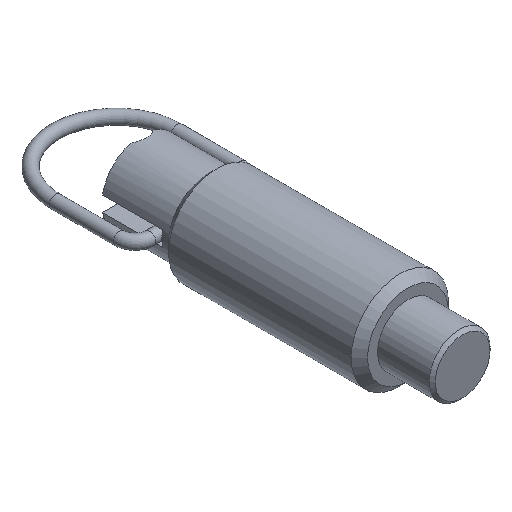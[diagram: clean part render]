
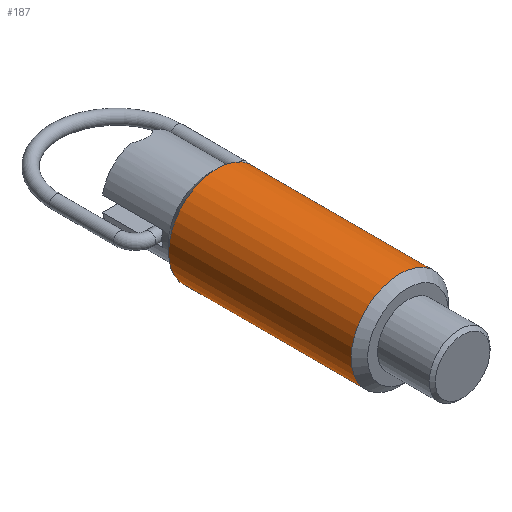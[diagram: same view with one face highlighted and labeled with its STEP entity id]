
A CAD part, isometric view. The second image highlights one B-rep face of the part: STEP entity #187.
In plain terms, the highlighted cylindrical face has radius 8 mm (diameter 16 mm), a full revolution.
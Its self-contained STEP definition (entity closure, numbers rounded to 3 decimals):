
#187 = ADVANCED_FACE( '', ( #255, #256 ), #257, .T. );
#255 = FACE_OUTER_BOUND( '', #370, .T. );
#256 = FACE_OUTER_BOUND( '', #371, .T. );
#257 = CYLINDRICAL_SURFACE( '', #372, 8. );
#370 = EDGE_LOOP( '', ( #578 ) );
#371 = EDGE_LOOP( '', ( #579 ) );
#372 = AXIS2_PLACEMENT_3D( '', #580, #581, #582 );
#578 = ORIENTED_EDGE( '', *, *, #739, .T. );
#579 = ORIENTED_EDGE( '', *, *, #740, .F. );
#580 = CARTESIAN_POINT( '', ( 0., 0., 0. ) );
#581 = DIRECTION( '', ( 0., 1., 0. ) );
#582 = DIRECTION( '', ( 0., 0., -1. ) );
#739 = EDGE_CURVE( '', #833, #833, #834, .T. );
#740 = EDGE_CURVE( '', #835, #835, #836, .T. );
#833 = VERTEX_POINT( '', #1035 );
#834 = CIRCLE( '', #1036, 8. );
#835 = VERTEX_POINT( '', #1037 );
#836 = CIRCLE( '', #1038, 8. );
#1035 = CARTESIAN_POINT( '', ( 0., 31.4, -8. ) );
#1036 = AXIS2_PLACEMENT_3D( '', #1228, #1229, #1230 );
#1037 = CARTESIAN_POINT( '', ( 0., 1.35, -8. ) );
#1038 = AXIS2_PLACEMENT_3D( '', #1231, #1232, #1233 );
#1228 = CARTESIAN_POINT( '', ( 0., 31.4, 0. ) );
#1229 = DIRECTION( '', ( 0., -1., 0. ) );
#1230 = DIRECTION( '', ( 0., 0., -1. ) );
#1231 = CARTESIAN_POINT( '', ( 0., 1.35, 0. ) );
#1232 = DIRECTION( '', ( 0., -1., 0. ) );
#1233 = DIRECTION( '', ( 0., 0., -1. ) );
